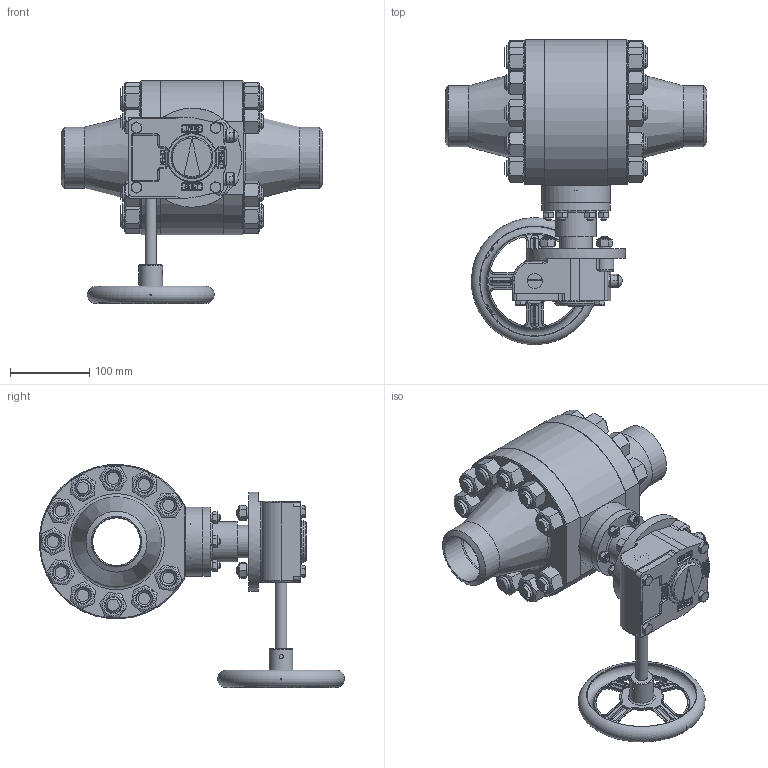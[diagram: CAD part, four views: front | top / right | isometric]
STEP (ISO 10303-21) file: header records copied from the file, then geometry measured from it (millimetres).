
FILE_DESCRIPTION(('STEP AP203'), '1');
FILE_NAME('ZARD 065.160.40.P ñ PåäóêòîPîì.stp', '2013-12-06T10:17:12', ($), ($), 'ASCON STEP Converter 1.3', 'Kompas 3D', '');
FILE_SCHEMA(('CONFIG_CONTROL_DESIGN','SUPPORT_RESOURCE_SCHEMA'));
Length unit declared in the file: millimetre
Products named in the file (1): 244
Bounding box: 330 x 384.74 x 281.36 mm (x, y, z)
Volume: 4886953.4 mm3; surface area: 784478 mm2
Topology: 1 solids, 57 shells, 2407 faces, 5927 edges, 3712 vertices
Faces by surface type: plane 1097, cylinder 511, cone 389, bspline 273, torus 91, extrusion 27, sphere 19
Full cylindrical faces by diameter (mm): 2 x4, 3.242 x4, 4.917 x18, 5.1 x1, 6.647 x10, 8 x12, 9 x6, 10 x14, 10.106 x4, 10.4 x1, 11 x4, 12 x6, 13 x6, 15 x2, 16 x2, 16.5 x2, 18 x8, 20 x39, 22 x11, 28.7 x1, 29.8 x1, 30 x2, 39.6 x2, 40 x1, 40.5 x1, 41 x1, 41.35 x2, 42.35 x2, 42.5 x2, 46 x1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
Entity records: 152505 total; most frequent: CARTESIAN_POINT 99834, ORIENTED_EDGE 11730, DIRECTION 9595, EDGE_CURVE 5865, VERTEX_POINT 3713, AXIS2_PLACEMENT_3D 3643, EDGE_LOOP 2628, ADVANCED_FACE 2405
